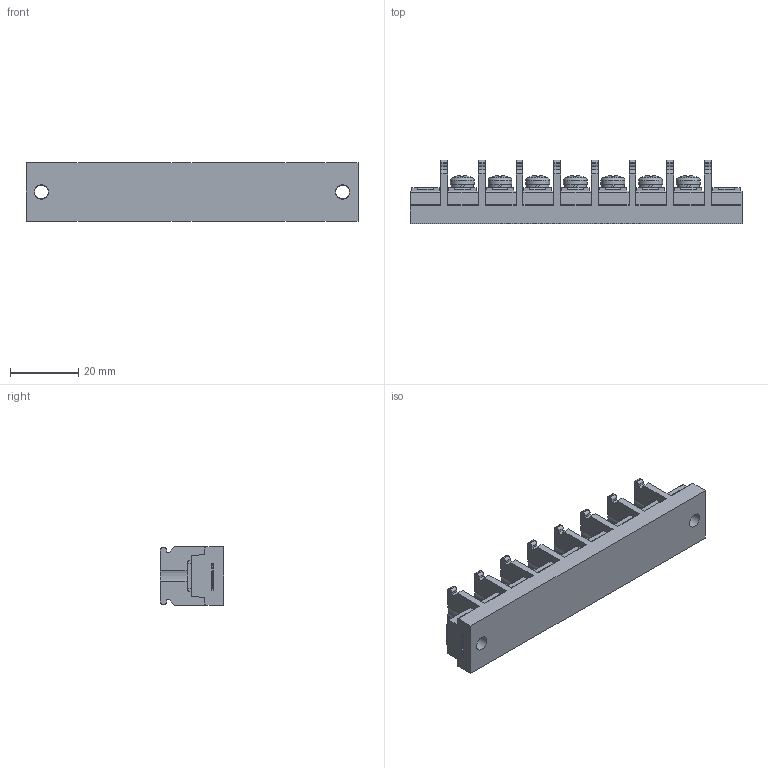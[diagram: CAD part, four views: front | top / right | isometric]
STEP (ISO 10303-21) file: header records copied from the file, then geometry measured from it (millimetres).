
FILE_DESCRIPTION(/* description */ ('Alibre Inc.'),/* implementation_level */ '2;1');
FILE_NAME(/* name */ 'export0',/* time_stamp */ '2015-10-19T19:23:14+09:00',/* author */ (''),/* organization */ (''),/* preprocessor_version */ 'ST-DEVELOPER v14',/* originating_system */ 'Alibre',/* authorisation */ '');
FILE_SCHEMA (('CONFIG_CONTROL_DESIGN'));
Length unit declared in the file: centimetre
Products named in the file (1): ID_1
Bounding box: 97 x 18.5 x 17 mm (x, y, z)
Volume: 17387.8 mm3; surface area: 9688 mm2
Topology: 1 solids, 1 shells, 934 faces, 2603 edges, 1729 vertices
Faces by surface type: plane 654, cylinder 127, bspline 104, cone 28, torus 14, sphere 7
Full cylindrical faces by diameter (mm): 4 x9, 4.2 x2, 6.5 x7, 7 x7
Entity records: 29017 total; most frequent: CARTESIAN_POINT 6321, ORIENTED_EDGE 5096, DIRECTION 3722, EDGE_CURVE 2548, VECTOR 1808, LINE 1808, VERTEX_POINT 1706, AXIS2_PLACEMENT_3D 1279
